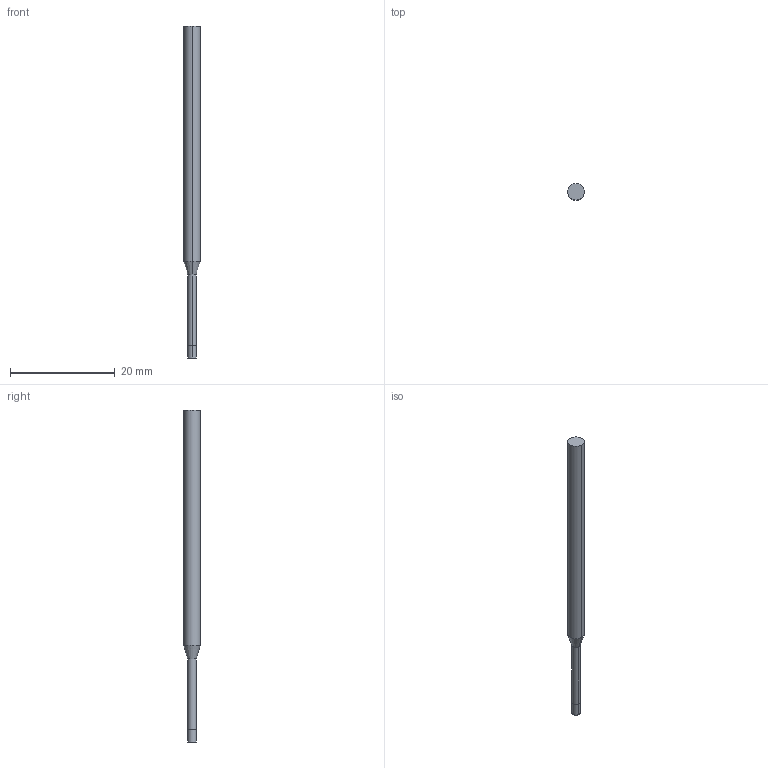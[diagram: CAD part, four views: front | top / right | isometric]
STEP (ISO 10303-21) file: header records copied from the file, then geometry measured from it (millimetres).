
FILE_DESCRIPTION((' '),'2;1');
FILE_NAME( '3MVS0625N10AH.stp', '2026-01-21T19:07:42', (' '), ('--- Datakit www.datakit.com---'), ' Datakit CrossCadWare V2025.4 Sep 19 2025', 'Mastercam 2027', ' ');
FILE_SCHEMA(('AUTOMOTIVE_DESIGN { 1 0 10303 214 1 1 1 1 }'));
Length unit declared in the file: inch
Products named in the file (1): 3MVS0625N10AH
Bounding box: 3.17 x 3.17 x 63.5 mm (x, y, z)
Volume: 399.9 mm3; surface area: 558.5 mm2
Topology: 1 solids, 1 shells, 10 faces, 18 edges, 10 vertices
Faces by surface type: cylinder 6, plane 2, cone 2
Entity records: 323 total; most frequent: DIRECTION 58, CARTESIAN_POINT 43, ORIENTED_EDGE 36, AXIS2_PLACEMENT_3D 25, EDGE_CURVE 18, VERTEX_POINT 10, CIRCLE 10, EDGE_LOOP 10
